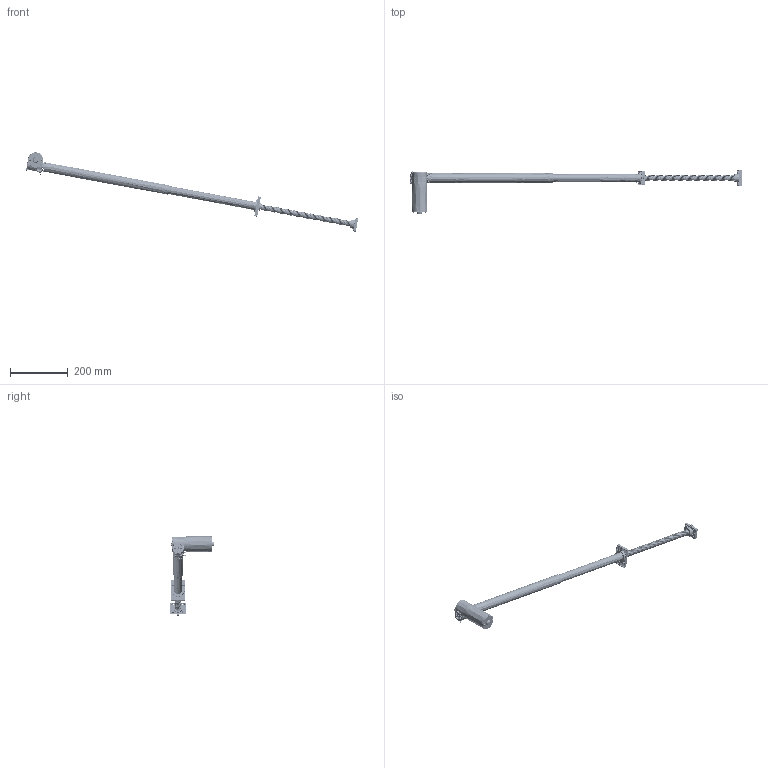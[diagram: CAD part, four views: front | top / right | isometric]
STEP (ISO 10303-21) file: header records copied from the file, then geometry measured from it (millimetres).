
FILE_DESCRIPTION((''),'2;1');
FILE_NAME('NEIBU-ZUJIAN_ASM','2016-11-22T',('user'),(''),'PRO/ENGINEER BY PARAMETRIC TECHNOLOGY CORPORATION, 2008090','PRO/ENGINEER BY PARAMETRIC TECHNOLOGY CORPORATION, 2008090','');
FILE_SCHEMA(('CONFIG_CONTROL_DESIGN'));
Products named in the file (1): NEIBU-ZUJIAN_ASM
Bounding box: 1149.16 x 150.5 x 274.57 mm (x, y, z)
Surface area: 372082.1 mm2 (no closed solid volume)
Topology: 0 solids, 0 shells, 2374 faces, 12728 edges, 12644 vertices
Faces by surface type: bspline 2295, torus 42, sphere 37
Entity records: 276848 total; most frequent: CARTESIAN_POINT 174121, DIRECTION 13862, DEFINITIONAL_REPRESENTATION 12618, PCURVE 12618, COMPOSITE_CURVE_SEGMENT 12618, TRIMMED_CURVE 12281, VECTOR 10858, LINE 10858
